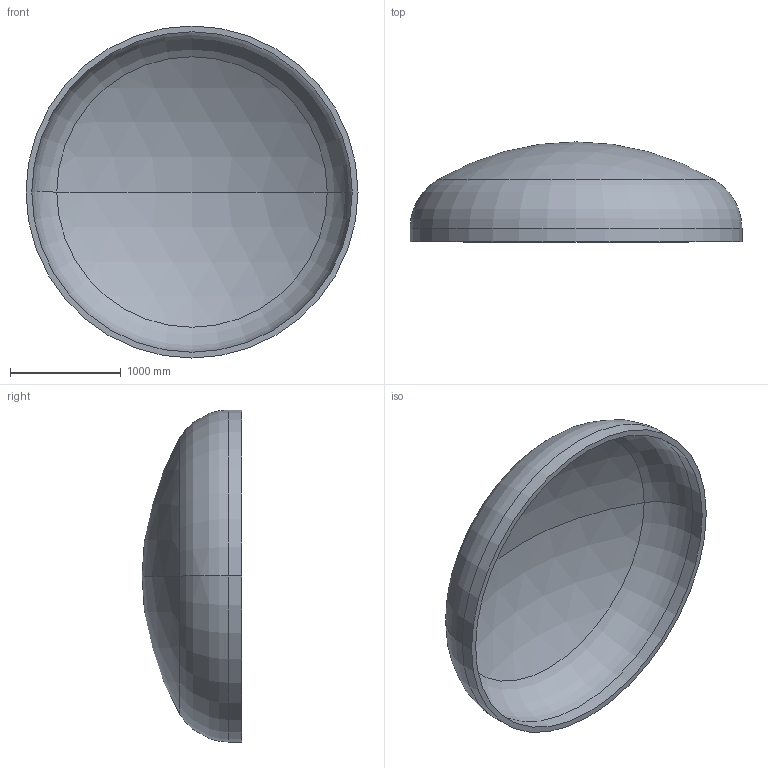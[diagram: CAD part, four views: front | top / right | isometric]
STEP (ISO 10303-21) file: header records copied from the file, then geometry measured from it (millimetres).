
FILE_DESCRIPTION (( 'STEP AP203' ), '1' );
FILE_NAME ('DIN 28013 Korbbogenform_-_Boden DIN 28013 - 3000 x 120 - I - s=52.step', '2016-07-01T17:52:32', ( '' ), ( '' ), 'SwSTEP 2.0', 'SolidWorks 2013', '' );
FILE_SCHEMA (( 'CONFIG_CONTROL_DESIGN' ));
Length unit declared in the file: millimetre
Products named in the file (1): DIN 28013 Korbbogenform_-_Boden DIN 28013 - 3000 x 120 - I - s=52
Bounding box: 3000 x 902.43 x 3000 mm (x, y, z)
Volume: 554933678.3 mm3; surface area: 21830852.5 mm2
Topology: 1 solids, 1 shells, 13 faces, 24 edges, 14 vertices
Faces by surface type: torus 4, cylinder 4, sphere 4, plane 1
Entity records: 407 total; most frequent: DIRECTION 72, CARTESIAN_POINT 52, ORIENTED_EDGE 48, AXIS2_PLACEMENT_3D 34, EDGE_CURVE 24, CIRCLE 20, VERTEX_POINT 14, EDGE_LOOP 14
